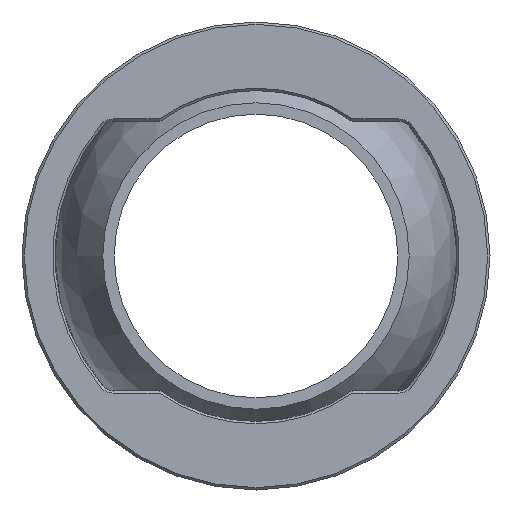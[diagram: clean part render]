
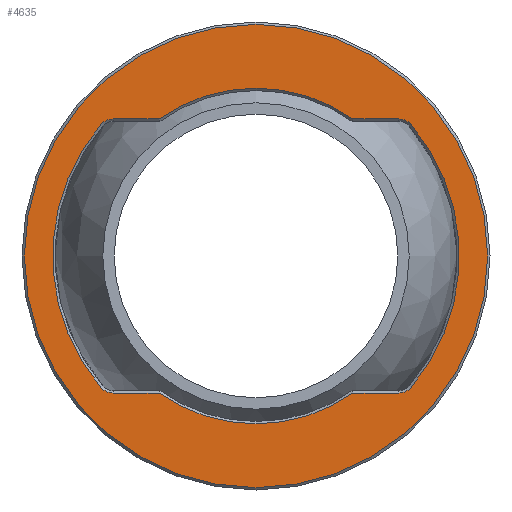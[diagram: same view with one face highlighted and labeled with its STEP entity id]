
A CAD part, front view. The second image highlights one B-rep face of the part: STEP entity #4635.
In plain terms, the highlighted planar face has unit normal (0, -1, 0).
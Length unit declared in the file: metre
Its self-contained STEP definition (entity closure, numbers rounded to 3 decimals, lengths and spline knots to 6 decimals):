
#4635=ADVANCED_FACE('',(#8353,#8354),#8355,.F.);
#8353=FACE_OUTER_BOUND('',#16554,.T.);
#8354=FACE_BOUND('',#16555,.T.);
#8355=PLANE('',#16556);
#16554=EDGE_LOOP('',(#21684));
#16555=EDGE_LOOP('',(#21685,#21686,#21687,#21688,#21689,#21690,#21691,#21692,#21693,#21694,#21695,#21696));
#16556=AXIS2_PLACEMENT_3D('',#21697,#21698,#21699);
#21684=ORIENTED_EDGE('',*,*,#22309,.F.);
#21685=ORIENTED_EDGE('',*,*,#22320,.T.);
#21686=ORIENTED_EDGE('',*,*,#22220,.T.);
#21687=ORIENTED_EDGE('',*,*,#22229,.T.);
#21688=ORIENTED_EDGE('',*,*,#22291,.T.);
#21689=ORIENTED_EDGE('',*,*,#22288,.T.);
#21690=ORIENTED_EDGE('',*,*,#22325,.T.);
#21691=ORIENTED_EDGE('',*,*,#22274,.T.);
#21692=ORIENTED_EDGE('',*,*,#22299,.T.);
#21693=ORIENTED_EDGE('',*,*,#22326,.T.);
#21694=ORIENTED_EDGE('',*,*,#22238,.T.);
#21695=ORIENTED_EDGE('',*,*,#22217,.T.);
#21696=ORIENTED_EDGE('',*,*,#22327,.T.);
#21697=CARTESIAN_POINT('',(-0.071428,-0.134728,0.0));
#21698=DIRECTION('',(0.0,1.0,0.0));
#21699=DIRECTION('',(0.0,0.0,1.0));
#22217=EDGE_CURVE('',#22347,#22352,#22354,.T.);
#22220=EDGE_CURVE('',#22359,#22356,#22360,.T.);
#22229=EDGE_CURVE('',#22356,#22374,#22375,.T.);
#22238=EDGE_CURVE('',#22386,#22347,#22389,.T.);
#22274=EDGE_CURVE('',#22446,#22444,#22447,.T.);
#22288=EDGE_CURVE('',#22467,#22465,#22468,.T.);
#22291=EDGE_CURVE('',#22374,#22467,#22471,.T.);
#22299=EDGE_CURVE('',#22444,#22479,#22481,.T.);
#22309=EDGE_CURVE('',#22494,#22494,#22495,.T.);
#22320=EDGE_CURVE('',#22506,#22359,#22509,.T.);
#22325=EDGE_CURVE('',#22465,#22446,#22514,.T.);
#22326=EDGE_CURVE('',#22479,#22386,#22515,.T.);
#22327=EDGE_CURVE('',#22352,#22506,#22516,.T.);
#22347=VERTEX_POINT('',#22540);
#22352=VERTEX_POINT('',#22546);
#22354=CIRCLE('',#22549,0.007);
#22356=VERTEX_POINT('',#22551);
#22359=VERTEX_POINT('',#22557);
#22360=LINE('',#22558,#22559);
#22374=VERTEX_POINT('',#22588);
#22375=CIRCLE('',#22589,0.071);
#22386=VERTEX_POINT('',#22603);
#22389=LINE('',#22610,#22611);
#22444=VERTEX_POINT('',#22685);
#22446=VERTEX_POINT('',#22688);
#22447=CIRCLE('',#22689,0.007);
#22465=VERTEX_POINT('',#22709);
#22467=VERTEX_POINT('',#22712);
#22468=CIRCLE('',#22713,0.007);
#22471=LINE('',#22717,#22718);
#22479=VERTEX_POINT('',#22739);
#22481=LINE('',#22744,#22745);
#22494=VERTEX_POINT('',#22769);
#22495=CIRCLE('',#22770,0.098);
#22506=VERTEX_POINT('',#22782);
#22509=CIRCLE('',#22786,0.007);
#22514=CIRCLE('',#22791,0.086);
#22515=CIRCLE('',#22792,0.071);
#22516=CIRCLE('',#22793,0.086);
#22540=CARTESIAN_POINT('',(-0.06076,-0.134728,-0.058));
#22546=CARTESIAN_POINT('',(-0.066106,-0.134728,-0.055519));
#22549=AXIS2_PLACEMENT_3D('',#22821,#22822,#22823);
#22551=CARTESIAN_POINT('',(-0.041379,-0.134728,0.058));
#22557=CARTESIAN_POINT('',(-0.06076,-0.134728,0.058));
#22558=CARTESIAN_POINT('',(-0.04276,-0.134728,0.058));
#22559=VECTOR('',#22824,1.0);
#22588=CARTESIAN_POINT('',(0.040523,-0.134728,0.058));
#22589=AXIS2_PLACEMENT_3D('',#22832,#22833,#22834);
#22603=CARTESIAN_POINT('',(-0.041379,-0.134728,-0.058));
#22610=CARTESIAN_POINT('',(-0.06076,-0.134728,-0.058));
#22611=VECTOR('',#22845,1.0);
#22685=CARTESIAN_POINT('',(0.059905,-0.134728,-0.058));
#22688=CARTESIAN_POINT('',(0.06525,-0.134728,-0.055519));
#22689=AXIS2_PLACEMENT_3D('',#22897,#22898,#22899);
#22709=CARTESIAN_POINT('',(0.06525,-0.134728,0.055519));
#22712=CARTESIAN_POINT('',(0.059905,-0.134728,0.058));
#22713=AXIS2_PLACEMENT_3D('',#22918,#22919,#22920);
#22717=CARTESIAN_POINT('',(0.059905,-0.134728,0.058));
#22718=VECTOR('',#22922,1.0);
#22739=CARTESIAN_POINT('',(0.040523,-0.134728,-0.058));
#22744=CARTESIAN_POINT('',(0.041904,-0.134728,-0.058));
#22745=VECTOR('',#22925,1.0);
#22769=CARTESIAN_POINT('',(-0.000428,-0.134728,0.098));
#22770=AXIS2_PLACEMENT_3D('',#22944,#22945,#22946);
#22782=CARTESIAN_POINT('',(-0.066106,-0.134728,0.055519));
#22786=AXIS2_PLACEMENT_3D('',#22958,#22959,#22960);
#22791=AXIS2_PLACEMENT_3D('',#22964,#22965,#22966);
#22792=AXIS2_PLACEMENT_3D('',#22967,#22968,#22969);
#22793=AXIS2_PLACEMENT_3D('',#22970,#22971,#22972);
#22821=CARTESIAN_POINT('',(-0.06076,-0.134728,-0.051));
#22822=DIRECTION('',(0.0,1.0,0.0));
#22823=DIRECTION('',(0.0,0.0,1.0));
#22824=DIRECTION('',(1.0,0.0,0.));
#22832=CARTESIAN_POINT('',(-0.000428,-0.134728,0.0));
#22833=DIRECTION('',(0.0,1.0,0.0));
#22834=DIRECTION('',(0.0,0.0,1.0));
#22845=DIRECTION('',(-1.0,0.0,0.));
#22897=CARTESIAN_POINT('',(0.059905,-0.134728,-0.051));
#22898=DIRECTION('',(0.0,1.0,0.0));
#22899=DIRECTION('',(0.0,0.0,1.0));
#22918=CARTESIAN_POINT('',(0.059905,-0.134728,0.051));
#22919=DIRECTION('',(0.0,1.0,0.0));
#22920=DIRECTION('',(0.0,0.0,1.0));
#22922=DIRECTION('',(1.0,0.0,0.));
#22925=DIRECTION('',(-1.0,0.0,0.));
#22944=CARTESIAN_POINT('',(-0.000428,-0.134728,0.0));
#22945=DIRECTION('',(0.0,1.0,0.0));
#22946=DIRECTION('',(0.0,0.0,1.0));
#22958=CARTESIAN_POINT('',(-0.06076,-0.134728,0.051));
#22959=DIRECTION('',(0.0,1.0,0.0));
#22960=DIRECTION('',(0.0,0.0,1.0));
#22964=CARTESIAN_POINT('',(-0.000428,-0.134728,0.));
#22965=DIRECTION('',(0.0,1.0,0.0));
#22966=DIRECTION('',(0.0,0.0,1.0));
#22967=CARTESIAN_POINT('',(-0.000428,-0.134728,0.0));
#22968=DIRECTION('',(0.0,1.0,0.0));
#22969=DIRECTION('',(0.0,0.0,1.0));
#22970=CARTESIAN_POINT('',(-0.000428,-0.134728,0.));
#22971=DIRECTION('',(0.0,1.0,0.0));
#22972=DIRECTION('',(0.0,0.0,1.0));
